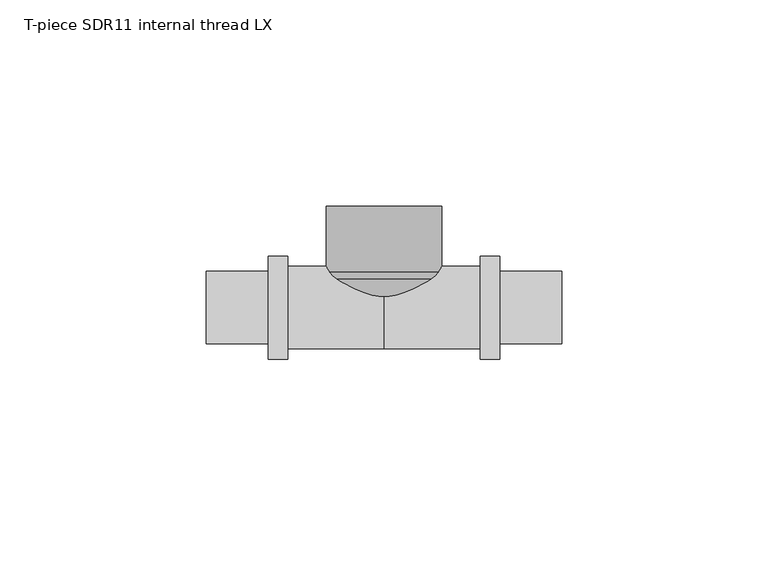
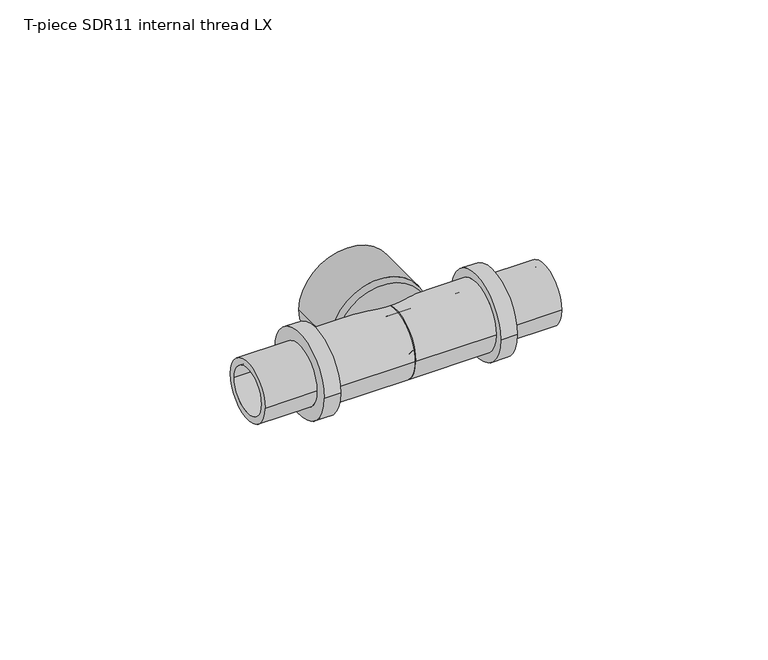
"""IFC4 building model written with IfcOpenShell, lengths in millimetres: pipe fitting geometry, T-piece SDR11 internal thread LX : T-piece LX SDR11 internal LX."""

from ifc_helpers import new_model, si_unit, point, frame, origin, place, context, project, spatial, polyline, circle_curve, ellipse_curve, trimmed, source, transform, mapped, element, save
from ifc_brep_helpers import plane_surface, cylinder_surface, revolved_surface, advanced_brep


def t_piece_sdr11_internal_thread_lx_8e1e4240(model_context):
    return source(origin(), model_context, "Body", "AdvancedBrep", [
        advanced_brep(
        [(9.8, 9.3, 0.0), (-9.8, 9.3, 0.0), (-9.8, 24.5, 0.0), (9.8, 24.5, 0.0), (0.5, 0.0, 0.0), (-0.5, 0.0, 0.0), (13.2683856, 6.8286886, 0.0), (-13.2683856, 6.8286886, 0.0), (-6.439697, 0.0, 0.0), (6.439697, 0.0, 0.0), (14.0, 8.5949621, 0.0), (-14.0, 8.5949621, 0.0), (14.0, 24.5, 0.0), (-14.0, 24.5, 0.0)],
        [
            (0, 1, circle_curve(frame((0.0, 9.3, 0.0), z_axis=(0.0, -1.0, 0.0), x_axis=(-1.0, 0.0, 0.0)), 9.8)),
            (1, 2),
            (2, 3, circle_curve(frame((0.0, 24.5, 0.0), z_axis=(0.0, 1.0, 0.0), x_axis=(-1.0, 0.0, 0.0)), 9.8)),
            (3, 0),
            (4, 5, circle_curve(frame((0.0, 0.0, 0.0), z_axis=(0.0, -1.0, 0.0), x_axis=(-1.0, 0.0, 0.0)), 0.5)),
            (5, 1),
            (0, 4),
            (6, 7, circle_curve(frame((0.0, 6.8286886, 0.0), z_axis=(0.0, -1.0, 0.0), x_axis=(-1.0, 0.0, 0.0)), 13.2683856)),
            (7, 8),
            (8, 9, circle_curve(frame((0.0, 0.0, 0.0), z_axis=(0.0, 1.0, 0.0), x_axis=(-1.0, 0.0, 0.0)), 6.439697)),
            (9, 6),
            (10, 11, circle_curve(frame((0.0, 8.5949621, 0.0), z_axis=(0.0, -1.0, 0.0), x_axis=(-1.0, 0.0, 0.0)), 14.0)),
            (11, 7, circle_curve(frame((-9.8, 9.3, 0.0), z_axis=(0.0, 0.0, 1.0), x_axis=(0.0, 1.0, 0.0)), 4.2587649)),
            (6, 10, circle_curve(frame((9.8, 9.3, 0.0), z_axis=(0.0, 0.0, 1.0), x_axis=(0.0, 1.0, 0.0)), 4.2587649)),
            (12, 13, circle_curve(frame((0.0, 24.5, 0.0), z_axis=(0.0, -1.0, 0.0), x_axis=(-1.0, 0.0, 0.0)), 14.0)),
            (13, 11),
            (10, 12),
            (12, 13, circle_curve(frame((0.0, 24.5, 0.0), z_axis=(0.0, 1.0, 0.0), x_axis=(1.0, 0.0, 0.0)), 14.0)),
            (2, 3, circle_curve(frame((0.0, 24.5, 0.0), z_axis=(0.0, -1.0, 0.0), x_axis=(1.0, 0.0, 0.0)), 9.8)),
            (1, 0, circle_curve(frame((0.0, 9.3, 0.0), z_axis=(0.0, -1.0, 0.0), x_axis=(1.0, 0.0, 0.0)), 9.8)),
            (5, 4, circle_curve(frame((0.0, 0.0, 0.0), z_axis=(0.0, -1.0, 0.0), x_axis=(1.0, 0.0, 0.0)), 0.5)),
            (8, 9, circle_curve(frame((0.0, 0.0, 0.0), z_axis=(0.0, -1.0, 0.0), x_axis=(1.0, 0.0, 0.0)), 6.439697)),
            (7, 6, circle_curve(frame((0.0, 6.8286886, 0.0), z_axis=(0.0, -1.0, 0.0), x_axis=(1.0, 0.0, 0.0)), 13.2683856)),
            (11, 10, circle_curve(frame((0.0, 8.5949621, 0.0), z_axis=(0.0, -1.0, 0.0), x_axis=(1.0, 0.0, 0.0)), 14.0)),
        ],
        [
            revolved_surface(polyline([(-9.8, 24.5, 0.0), (-9.8, 9.3, 0.0)]), (0.0, 0.0, 0.0), (0.0, 1.0, 0.0)),
            revolved_surface(polyline([(-9.8, 9.3, 0.0), (-0.5, 0.0, 0.0)]), (0.0, 0.0, 0.0), (0.0, 1.0, 0.0)),
            revolved_surface(polyline([(-6.439697, 0.0, 0.0), (-13.2683856, 6.8286886, 0.0)]), (0.0, 0.0, 0.0), (0.0, 1.0, 0.0)),
            revolved_surface(trimmed(ellipse_curve(frame((-9.8, 9.3, 0.0), z_axis=(0.0, 0.0, -1.0), x_axis=(0.0, 1.0, 0.0)), 4.2587649, 4.2587649), [point((-13.2683856, 6.8286886, 0.0))], [point((-14.0, 8.5949621, 0.0))], True, "CARTESIAN"), (0.0, 0.0, 0.0), (0.0, 1.0, 0.0)),
            cylinder_surface(frame((0.0, 0.0, 0.0), z_axis=(0.0, 1.0, 0.0), x_axis=(-1.0, 0.0, 0.0)), 14.0),
            plane_surface(frame((0.0, 24.5, 0.0), z_axis=(0.0, 1.0, 0.0), x_axis=(1.0, 0.0, 0.0))),
            revolved_surface(polyline([(9.8, 24.5, 0.0), (9.8, 9.3, 0.0)]), (0.0, 0.0, 0.0), (0.0, 1.0, 0.0)),
            revolved_surface(polyline([(9.8, 9.3, 0.0), (0.5, 0.0, 0.0)]), (0.0, 0.0, 0.0), (0.0, 1.0, 0.0)),
            plane_surface(frame((0.0, 0.0, 0.0), z_axis=(0.0, -1.0, 0.0), x_axis=(1.0, 0.0, 0.0))),
            revolved_surface(polyline([(6.439697, 0.0, 0.0), (13.2683856, 6.8286886, 0.0)]), (0.0, 0.0, 0.0), (0.0, 1.0, 0.0)),
            revolved_surface(trimmed(ellipse_curve(frame((9.8, 9.3, 0.0), z_axis=(0.0, 0.0, 1.0), x_axis=(0.0, 1.0, 0.0)), 4.2587649, 4.2587649), [point((13.2683856, 6.8286886, 0.0))], [point((14.0, 8.5949621, 0.0))], True, "CARTESIAN"), (0.0, 0.0, 0.0), (0.0, 1.0, 0.0)),
            cylinder_surface(frame((0.0, 0.0, 0.0), z_axis=(0.0, 1.0, 0.0), x_axis=(1.0, 0.0, 0.0)), 14.0),
        ],
        [
            (0, [[1, 2, 3, 4]]),
            (1, [[5, 6, -1, 7]]),
            (2, [[8, 9, 10, 11]]),
            (3, [[12, 13, -8, 14]]),
            (4, [[15, 16, -12, 17]]),
            (5, [[18, -15], [19, -3]]),
            (6, [[20, -4, -19, -2]]),
            (7, [[21, -7, -20, -6]]),
            (8, [[22, -10], [-21, -5]]),
            (9, [[23, -11, -22, -9]]),
            (10, [[24, -14, -23, -13]]),
            (11, [[-18, -17, -24, -16]]),
        ],
    ),
        advanced_brep(
        [(28.0, 12.5, 0.0), (28.0, -12.5, 0.0), (23.3, -12.5, 0.0), (23.3, 12.5, 0.0), (43.0, 8.8, 0.0), (43.0, -8.8, 0.0), (28.0, -8.8, 0.0), (28.0, 8.8, 0.0), (0.0, 6.8, 0.0), (0.0, -6.8, 0.0), (43.0, -6.8, 0.0), (43.0, 6.8, 0.0), (23.3, 10.0, 0.0), (23.3, -10.0, 0.0), (0.0, -10.0, 0.0), (0.0, 10.0, 0.0)],
        [
            (0, 1, circle_curve(frame((28.0, 0.0, 0.0), z_axis=(-1.0, 0.0, 0.0), x_axis=(0.0, -1.0, 0.0)), 12.5)),
            (1, 2),
            (2, 3, circle_curve(frame((23.3, 0.0, 0.0), z_axis=(1.0, 0.0, 0.0), x_axis=(0.0, -1.0, 0.0)), 12.5)),
            (3, 0),
            (4, 5, circle_curve(frame((43.0, 0.0, 0.0), z_axis=(-1.0, 0.0, 0.0), x_axis=(0.0, -1.0, 0.0)), 8.8)),
            (5, 6),
            (6, 7, circle_curve(frame((28.0, 0.0, 0.0), z_axis=(1.0, 0.0, 0.0), x_axis=(0.0, -1.0, 0.0)), 8.8)),
            (7, 4),
            (8, 9, circle_curve(frame((0.0, 0.0, 0.0), z_axis=(-1.0, 0.0, 0.0), x_axis=(0.0, -1.0, 0.0)), 6.8)),
            (9, 10),
            (10, 11, circle_curve(frame((43.0, 0.0, 0.0), z_axis=(1.0, 0.0, 0.0), x_axis=(0.0, -1.0, 0.0)), 6.8)),
            (11, 8),
            (12, 13, circle_curve(frame((23.3, 0.0, 0.0), z_axis=(-1.0, 0.0, 0.0), x_axis=(0.0, -1.0, 0.0)), 10.0)),
            (13, 14),
            (14, 15, circle_curve(frame((0.0, 0.0, 0.0), z_axis=(1.0, 0.0, 0.0), x_axis=(0.0, -1.0, 0.0)), 10.0)),
            (15, 12),
            (1, 0, circle_curve(frame((28.0, 0.0, 0.0), z_axis=(-1.0, 0.0, 0.0), x_axis=(0.0, 1.0, 0.0)), 12.5)),
            (3, 2, circle_curve(frame((23.3, 0.0, 0.0), z_axis=(1.0, 0.0, 0.0), x_axis=(0.0, 1.0, 0.0)), 12.5)),
            (6, 7, circle_curve(frame((28.0, 0.0, 0.0), z_axis=(-1.0, 0.0, 0.0), x_axis=(0.0, 1.0, 0.0)), 8.8)),
            (5, 4, circle_curve(frame((43.0, 0.0, 0.0), z_axis=(-1.0, 0.0, 0.0), x_axis=(0.0, 1.0, 0.0)), 8.8)),
            (10, 11, circle_curve(frame((43.0, 0.0, 0.0), z_axis=(-1.0, 0.0, 0.0), x_axis=(0.0, 1.0, 0.0)), 6.8)),
            (9, 8, circle_curve(frame((0.0, 0.0, 0.0), z_axis=(-1.0, 0.0, 0.0), x_axis=(0.0, 1.0, 0.0)), 6.8)),
            (14, 15, circle_curve(frame((0.0, 0.0, 0.0), z_axis=(-1.0, 0.0, 0.0), x_axis=(0.0, 1.0, 0.0)), 10.0)),
            (13, 12, circle_curve(frame((23.3, 0.0, 0.0), z_axis=(-1.0, 0.0, 0.0), x_axis=(0.0, 1.0, 0.0)), 10.0)),
        ],
        [
            cylinder_surface(frame((0.0, 0.0, 0.0), z_axis=(1.0, 0.0, 0.0), x_axis=(0.0, -1.0, 0.0)), 12.5),
            cylinder_surface(frame((0.0, 0.0, 0.0), z_axis=(1.0, 0.0, 0.0), x_axis=(0.0, -1.0, 0.0)), 8.8),
            revolved_surface(polyline([(43.0, -6.8, 0.0), (0.0, -6.8, 0.0)]), (0.0, 0.0, 0.0), (1.0, 0.0, 0.0)),
            cylinder_surface(frame((0.0, 0.0, 0.0), z_axis=(1.0, 0.0, 0.0), x_axis=(0.0, -1.0, 0.0)), 10.0),
            cylinder_surface(frame((0.0, 0.0, 0.0), z_axis=(1.0, 0.0, 0.0), x_axis=(0.0, 1.0, 0.0)), 12.5),
            plane_surface(frame((28.0, 0.0, 0.0), z_axis=(1.0, 0.0, 0.0), x_axis=(0.0, 1.0, 0.0))),
            cylinder_surface(frame((0.0, 0.0, 0.0), z_axis=(1.0, 0.0, 0.0), x_axis=(0.0, 1.0, 0.0)), 8.8),
            plane_surface(frame((43.0, 0.0, 0.0), z_axis=(1.0, 0.0, 0.0), x_axis=(0.0, 1.0, 0.0))),
            revolved_surface(polyline([(43.0, 6.8, 0.0), (0.0, 6.8, 0.0)]), (0.0, 0.0, 0.0), (1.0, 0.0, 0.0)),
            plane_surface(frame((0.0, 0.0, 0.0), z_axis=(-1.0, 0.0, 0.0), x_axis=(0.0, 1.0, 0.0))),
            cylinder_surface(frame((0.0, 0.0, 0.0), z_axis=(1.0, 0.0, 0.0), x_axis=(0.0, 1.0, 0.0)), 10.0),
            plane_surface(frame((23.3, 0.0, 0.0), z_axis=(-1.0, 0.0, 0.0), x_axis=(0.0, 1.0, 0.0))),
        ],
        [
            (0, [[1, 2, 3, 4]]),
            (1, [[5, 6, 7, 8]]),
            (2, [[9, 10, 11, 12]]),
            (3, [[13, 14, 15, 16]]),
            (4, [[17, -4, 18, -2]]),
            (5, [[-17, -1], [19, -7]]),
            (6, [[20, -8, -19, -6]]),
            (7, [[-20, -5], [21, -11]]),
            (8, [[22, -12, -21, -10]]),
            (9, [[23, -15], [-22, -9]]),
            (10, [[24, -16, -23, -14]]),
            (11, [[-18, -3], [-24, -13]]),
        ],
    ),
        advanced_brep(
        [(0.0, 10.0, 0.0), (0.0, -10.0, 0.0), (-23.3, -10.0, 0.0), (-23.3, 10.0, 0.0), (-43.0, 6.8, 0.0), (-43.0, -6.8, 0.0), (0.0, -6.8, 0.0), (0.0, 6.8, 0.0), (-28.0, 8.8, 0.0), (-28.0, -8.8, 0.0), (-43.0, -8.8, 0.0), (-43.0, 8.8, 0.0), (-23.3, 12.5, 0.0), (-23.3, -12.5, 0.0), (-28.0, -12.5, 0.0), (-28.0, 12.5, 0.0)],
        [
            (0, 1, circle_curve(frame((0.0, 0.0, 0.0), z_axis=(-1.0, 0.0, 0.0), x_axis=(0.0, -1.0, 0.0)), 10.0)),
            (1, 2),
            (2, 3, circle_curve(frame((-23.3, 0.0, 0.0), z_axis=(1.0, 0.0, 0.0), x_axis=(0.0, -1.0, 0.0)), 10.0)),
            (3, 0),
            (4, 5, circle_curve(frame((-43.0, 0.0, 0.0), z_axis=(-1.0, 0.0, 0.0), x_axis=(0.0, -1.0, 0.0)), 6.8)),
            (5, 6),
            (6, 7, circle_curve(frame((0.0, 0.0, 0.0), z_axis=(1.0, 0.0, 0.0), x_axis=(0.0, -1.0, 0.0)), 6.8)),
            (7, 4),
            (8, 9, circle_curve(frame((-28.0, 0.0, 0.0), z_axis=(-1.0, 0.0, 0.0), x_axis=(0.0, -1.0, 0.0)), 8.8)),
            (9, 10),
            (10, 11, circle_curve(frame((-43.0, 0.0, 0.0), z_axis=(1.0, 0.0, 0.0), x_axis=(0.0, -1.0, 0.0)), 8.8)),
            (11, 8),
            (12, 13, circle_curve(frame((-23.3, 0.0, 0.0), z_axis=(-1.0, 0.0, 0.0), x_axis=(0.0, -1.0, 0.0)), 12.5)),
            (13, 14),
            (14, 15, circle_curve(frame((-28.0, 0.0, 0.0), z_axis=(1.0, 0.0, 0.0), x_axis=(0.0, -1.0, 0.0)), 12.5)),
            (15, 12),
            (12, 13, circle_curve(frame((-23.3, 0.0, 0.0), z_axis=(1.0, 0.0, 0.0), x_axis=(0.0, 1.0, 0.0)), 12.5)),
            (2, 3, circle_curve(frame((-23.3, 0.0, 0.0), z_axis=(-1.0, 0.0, 0.0), x_axis=(0.0, 1.0, 0.0)), 10.0)),
            (1, 0, circle_curve(frame((0.0, 0.0, 0.0), z_axis=(-1.0, 0.0, 0.0), x_axis=(0.0, 1.0, 0.0)), 10.0)),
            (6, 7, circle_curve(frame((0.0, 0.0, 0.0), z_axis=(-1.0, 0.0, 0.0), x_axis=(0.0, 1.0, 0.0)), 6.8)),
            (5, 4, circle_curve(frame((-43.0, 0.0, 0.0), z_axis=(-1.0, 0.0, 0.0), x_axis=(0.0, 1.0, 0.0)), 6.8)),
            (10, 11, circle_curve(frame((-43.0, 0.0, 0.0), z_axis=(-1.0, 0.0, 0.0), x_axis=(0.0, 1.0, 0.0)), 8.8)),
            (9, 8, circle_curve(frame((-28.0, 0.0, 0.0), z_axis=(-1.0, 0.0, 0.0), x_axis=(0.0, 1.0, 0.0)), 8.8)),
            (14, 15, circle_curve(frame((-28.0, 0.0, 0.0), z_axis=(-1.0, 0.0, 0.0), x_axis=(0.0, 1.0, 0.0)), 12.5)),
        ],
        [
            cylinder_surface(frame((0.0, 0.0, 0.0), z_axis=(1.0, 0.0, 0.0), x_axis=(0.0, -1.0, 0.0)), 10.0),
            revolved_surface(polyline([(0.0, -6.8, 0.0), (-43.0, -6.8, 0.0)]), (0.0, 0.0, 0.0), (1.0, 0.0, 0.0)),
            cylinder_surface(frame((0.0, 0.0, 0.0), z_axis=(1.0, 0.0, 0.0), x_axis=(0.0, -1.0, 0.0)), 8.8),
            cylinder_surface(frame((0.0, 0.0, 0.0), z_axis=(1.0, 0.0, 0.0), x_axis=(0.0, -1.0, 0.0)), 12.5),
            plane_surface(frame((-23.3, 0.0, 0.0), z_axis=(1.0, 0.0, 0.0), x_axis=(0.0, 1.0, 0.0))),
            cylinder_surface(frame((0.0, 0.0, 0.0), z_axis=(1.0, 0.0, 0.0), x_axis=(0.0, 1.0, 0.0)), 10.0),
            plane_surface(frame((0.0, 0.0, 0.0), z_axis=(1.0, 0.0, 0.0), x_axis=(0.0, 1.0, 0.0))),
            revolved_surface(polyline([(0.0, 6.8, 0.0), (-43.0, 6.8, 0.0)]), (0.0, 0.0, 0.0), (1.0, 0.0, 0.0)),
            plane_surface(frame((-43.0, 0.0, 0.0), z_axis=(-1.0, 0.0, 0.0), x_axis=(0.0, 1.0, 0.0))),
            cylinder_surface(frame((0.0, 0.0, 0.0), z_axis=(1.0, 0.0, 0.0), x_axis=(0.0, 1.0, 0.0)), 8.8),
            plane_surface(frame((-28.0, 0.0, 0.0), z_axis=(-1.0, 0.0, 0.0), x_axis=(0.0, 1.0, 0.0))),
            cylinder_surface(frame((0.0, 0.0, 0.0), z_axis=(1.0, 0.0, 0.0), x_axis=(0.0, 1.0, 0.0)), 12.5),
        ],
        [
            (0, [[1, 2, 3, 4]]),
            (1, [[5, 6, 7, 8]]),
            (2, [[9, 10, 11, 12]]),
            (3, [[13, 14, 15, 16]]),
            (4, [[17, -13], [18, -3]]),
            (5, [[19, -4, -18, -2]]),
            (6, [[-19, -1], [20, -7]]),
            (7, [[21, -8, -20, -6]]),
            (8, [[22, -11], [-21, -5]]),
            (9, [[23, -12, -22, -10]]),
            (10, [[24, -15], [-23, -9]]),
            (11, [[-17, -16, -24, -14]]),
        ],
    ),
    ])


if __name__ == "__main__":
    model = new_model("IFC4")
    model_context = context("Model", 3, world=origin())
    ifc_project = project(units=[si_unit("LENGTHUNIT", "METRE", prefix="MILLI")], contexts=[model_context])
    site = spatial("IfcSite", under=ifc_project)
    building = spatial("IfcBuilding", under=site)
    placement = place(None, origin())
    t_piece_sdr11_internal_thread_lx_shape = t_piece_sdr11_internal_thread_lx_8e1e4240(model_context)
    element("IfcPipeFitting", 1, ObjectType="T-piece SDR11 internal thread LX : T-piece LX SDR11 internal LX", at=placement, inside=building, context=model_context, shape_type="MappedRepresentation", body=[
        mapped(t_piece_sdr11_internal_thread_lx_shape, transform((0.0, 0.0, 0.0), x_axis=(1.0, 0.0, 0.0), y_axis=(0.0, 1.0, 0.0), z_axis=(0.0, 0.0, 1.0))),
    ])
    save(model, "model.ifc")
